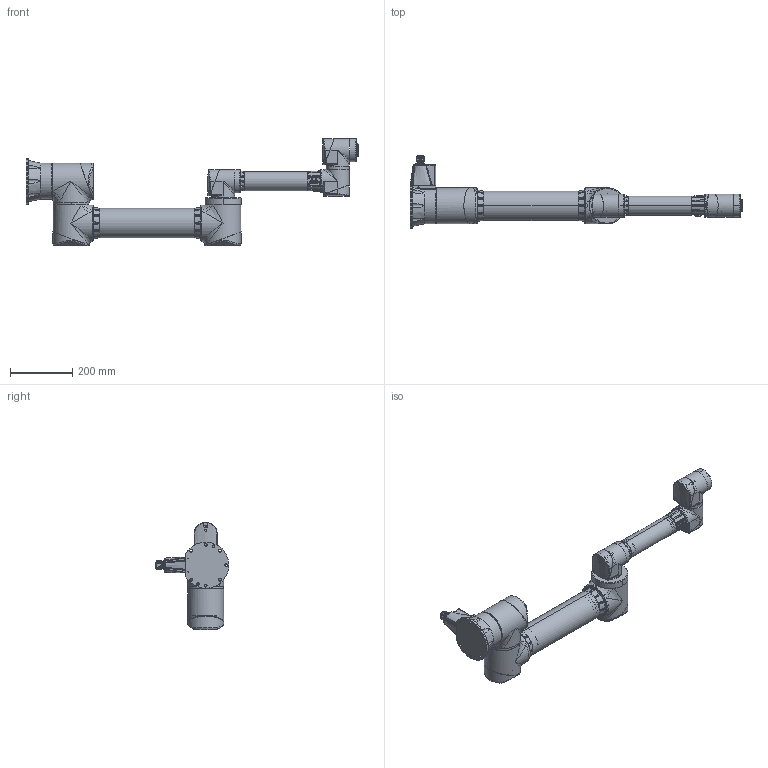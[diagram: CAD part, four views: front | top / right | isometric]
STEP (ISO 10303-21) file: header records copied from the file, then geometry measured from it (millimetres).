
FILE_DESCRIPTION((''),'2;1');
FILE_NAME('ZRA_0507N_ASM','2022-11-10T09:24:57',('ChoSeongHee'),(''),'CREO PARAMETRIC BY PTC INC, 2020354','CREO PARAMETRIC BY PTC INC, 2020354','');
FILE_SCHEMA(('CONFIG_CONTROL_DESIGN'));
Products named in the file (25): FLANGE_B; HOLDER_M; COVER_M; MODULE_M_ASM; RING_M; ARM1_PIPE; FLANGE_ARM1; ARM1_ASM; FLANGE_J3; HOLDER_S; COVER_S; MODULE_S_ASM; PIPE2; FLANGE_J4; FLANGE_J5; PLATE; PORT; ARM2_ASM; FLANGE_E; RING_S; COVER_J; CABLE; PLATE_J; COVER_J_ASM; ZRA_0507N_ASM
Assembly tree (29 placements, depth 3):
  ZRA_0507N_ASM
    FLANGE_B
    MODULE_M_ASM  x3
      HOLDER_M
      COVER_M
    RING_M
    ARM1_ASM
      ARM1_PIPE
      FLANGE_ARM1  x2
    FLANGE_J3
    MODULE_S_ASM  x3
      HOLDER_S
      COVER_S
    ARM2_ASM
      PIPE2
      FLANGE_J4
      FLANGE_J5
      PLATE
      PORT
    FLANGE_E
    RING_S
    COVER_J_ASM
      COVER_J
      CABLE
      PLATE_J
Bounding box: 1070.1 x 237.3 x 344.89 mm (x, y, z)
Volume: 12651044 mm3; surface area: 949944.1 mm2
Topology: 28 solids, 212 shells, 3861 faces, 10478 edges, 6914 vertices
Faces by surface type: cylinder 1409, plane 1297, bspline 650, torus 269, cone 210, sphere 18, extrusion 8
Entity records: 146255 total; most frequent: CARTESIAN_POINT 72340, ORIENTED_EDGE 16264, DIRECTION 13894, EDGE_CURVE 8266, VERTEX_POINT 5414, AXIS2_PLACEMENT_3D 5218, VECTOR 3458, LINE 3450
